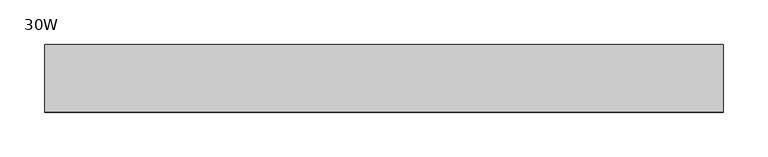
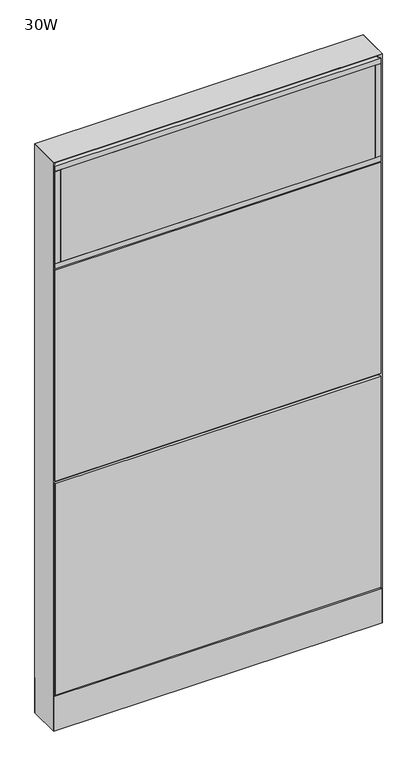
"""IFC4 building model written with IfcOpenShell, lengths in millimetres: furniture geometry, Steelcase - Montage - Frame - 55H - Enhanced Standard - Base Cavity : 30W."""

from ifc_helpers import new_model, si_unit, point, frame, frame_2d, origin, origin_with_axes, place, context, project, spatial, polyline, circle_curve, trimmed, segment, composite_curve, outline, extrude, faceted_brep, source, transform, mapped, element, save


def furniture_30w_effaa8fa(model_context):
    return source(origin(), model_context, "Body", "SolidModel", [
        extrude(outline(polyline([(746.125, 38.1000015), (746.125, 31.7500017), (15.875, 31.7500017), (15.875, 38.1000015), (746.125, 38.1000015)])), frame((0.0, 0.0, 1149.35), z_axis=(0.0, 0.0, 1.0), x_axis=(1.0, 0.0, 0.0)), (0.0, 0.0, 1.0), 226.21875),
        extrude(outline(polyline([(746.125, -31.7499985), (746.125, -38.1000015), (15.875, -38.1000015), (15.875, -31.7499985), (746.125, -31.7499985)])), frame((0.0, 0.0, 1149.35), z_axis=(0.0, 0.0, 1.0), x_axis=(1.0, 0.0, 0.0)), (0.0, 0.0, 1.0), 226.21875),
        extrude(outline(polyline([(15.875, -38.1000015), (3.175, -38.1000015), (3.175, 38.1000015), (15.875, 38.1000015), (15.875, -38.1000015)])), frame((0.0, 0.0, 1149.35), z_axis=(0.0, 0.0, 1.0), x_axis=(1.0, 0.0, 0.0)), (0.0, 0.0, 1.0), 226.21875),
        extrude(outline(polyline([(758.825, -38.1000015), (746.125, -38.1000015), (746.125, 38.1000015), (758.825, 38.1000015), (758.825, -38.1000015)])), frame((0.0, 0.0, 1149.35), z_axis=(0.0, 0.0, 1.0), x_axis=(1.0, 0.0, 0.0)), (0.0, 0.0, 1.0), 226.21875),
        extrude(outline(polyline([(758.825, -38.1000015), (3.175, -38.1000015), (3.175, 38.1000015), (758.825, 38.1000015), (758.825, -38.1000015)])), frame((0.0, 0.0, 1136.65), z_axis=(0.0, 0.0, 1.0), x_axis=(1.0, 0.0, 0.0)), (0.0, 0.0, 1.0), 12.7),
        extrude(outline(polyline([(758.825, -38.1000015), (3.175, -38.1000015), (3.175, 38.1000015), (758.825, 38.1000015), (758.825, -38.1000015)])), frame((0.0, 0.0, 1375.56875), z_axis=(0.0, 0.0, 1.0), x_axis=(1.0, 0.0, 0.0)), (0.0, 0.0, 1.0), 12.7),
        extrude(outline(polyline([(3.175, 31.7500194), (3.175, 38.1000194), (758.825, 38.1000194), (758.825, 31.7500194), (3.175, 31.7500194)])), frame((0.0, 0.0, 615.95), z_axis=(0.0, 0.0, 1.0), x_axis=(1.0, 0.0, 0.0)), (0.0, 0.0, 1.0), 517.525),
        extrude(outline(polyline([(3.175, 31.7500194), (3.175, 38.1000194), (758.825, 38.1000194), (758.825, 31.7500194), (3.175, 31.7500194)])), frame((0.0, 0.0, 92.075), z_axis=(0.0, 0.0, 1.0), x_axis=(1.0, 0.0, 0.0)), (0.0, 0.0, 1.0), 517.525),
        extrude(outline(polyline([(746.125, -38.1000015), (15.875, -38.1000015), (15.875, -31.7500017), (746.125, -31.7500017), (746.125, -38.1000015)])), frame((0.0, 0.0, 1149.35), z_axis=(0.0, 0.0, 1.0), x_axis=(1.0, 0.0, 0.0)), (0.0, 0.0, 1.0), 226.21875),
        extrude(outline(polyline([(746.125, 31.7499985), (15.875, 31.7499985), (15.875, 38.1000015), (746.125, 38.1000015), (746.125, 31.7499985)])), frame((0.0, 0.0, 1149.35), z_axis=(0.0, 0.0, 1.0), x_axis=(1.0, 0.0, 0.0)), (0.0, 0.0, 1.0), 226.21875),
        extrude(outline(polyline([(15.875, 38.1000015), (15.875, -38.1000015), (3.175, -38.1000015), (3.175, 38.1000015), (15.875, 38.1000015)])), frame((0.0, 0.0, 1149.35), z_axis=(0.0, 0.0, 1.0), x_axis=(1.0, 0.0, 0.0)), (0.0, 0.0, 1.0), 226.21875),
        extrude(outline(polyline([(758.825, 38.1000015), (758.825, -38.1000015), (746.125, -38.1000015), (746.125, 38.1000015), (758.825, 38.1000015)])), frame((0.0, 0.0, 1149.35), z_axis=(0.0, 0.0, 1.0), x_axis=(1.0, 0.0, 0.0)), (0.0, 0.0, 1.0), 226.21875),
        extrude(outline(polyline([(758.825, 38.1000015), (758.825, -38.1000015), (3.175, -38.1000015), (3.175, 38.1000015), (758.825, 38.1000015)])), frame((0.0, 0.0, 1136.65), z_axis=(0.0, 0.0, 1.0), x_axis=(1.0, 0.0, 0.0)), (0.0, 0.0, 1.0), 12.7),
        extrude(outline(polyline([(758.825, 38.1000015), (758.825, -38.1000015), (3.175, -38.1000015), (3.175, 38.1000015), (758.825, 38.1000015)])), frame((0.0, 0.0, 1375.56875), z_axis=(0.0, 0.0, 1.0), x_axis=(1.0, 0.0, 0.0)), (0.0, 0.0, 1.0), 12.7),
        extrude(outline(polyline([(3.175, -31.7500194), (758.825, -31.7500194), (758.825, -38.1000194), (3.175, -38.1000194), (3.175, -31.7500194)])), frame((0.0, 0.0, 615.95), z_axis=(0.0, 0.0, 1.0), x_axis=(1.0, 0.0, 0.0)), (0.0, 0.0, 1.0), 517.525),
        extrude(outline(polyline([(3.175, -31.7500194), (758.825, -31.7500194), (758.825, -38.1000194), (3.175, -38.1000194), (3.175, -31.7500194)])), frame((0.0, 0.0, 92.075), z_axis=(0.0, 0.0, 1.0), x_axis=(1.0, 0.0, 0.0)), (0.0, 0.0, 1.0), 517.525),
        extrude(outline(polyline([(6.350003, -31.7499985), (755.649997, -31.7499985), (762.0, -38.1000015), (0.0, -38.1000015), (6.350003, -31.7499985)])), frame((0.0, 0.0, 4.064), z_axis=(0.0, 0.0, 1.0), x_axis=(1.0, 0.0, 0.0)), (0.0, 0.0, 1.0), 84.835997),
        extrude(outline(polyline([(6.3500002, 31.7500017), (0.0, 38.1000015), (762.0, 38.1000015), (755.6500002, 31.7500017), (6.3500002, 31.7500017)])), frame((0.0, 0.0, 4.064), z_axis=(0.0, 0.0, 1.0), x_axis=(1.0, 0.0, 0.0)), (0.0, 0.0, 1.0), 84.835997),
        faceted_brep([(762.0, -38.1000015, 1398.5875), (0.0, -38.1000015, 1398.5875), (6.3500484, -31.749953, 1392.2374516), (755.6499516, -31.749953, 1392.2374516), (6.3500484, 31.749953, 1392.2374516), (755.6499516, 31.749953, 1392.2374516), (0.0, 38.1000015, 1398.5875), (762.0, 38.1000015, 1398.5875)], [[[0, 1, 2, 3]], [[3, 2, 4, 5]], [[6, 7, 5, 4]], [[1, 0, 7, 6]], [[2, 1, 6, 4]], [[0, 3, 5, 7]]]),
        extrude(outline(composite_curve([segment(trimmed(circle_curve(frame_2d((44.45, 0.0)), 15.24), [point((29.21, 0.0))], [point((59.69, 0.0))], False, "CARTESIAN"), True, "CONTINUOUS"), segment(trimmed(circle_curve(frame_2d((44.45, 0.0)), 15.24), [point((59.69, 0.0))], [point((29.21, 0.0))], False, "CARTESIAN"), True, "CONTINUOUS")], self_intersect=False)), origin_with_axes(), (0.0, 0.0, 1.0), 4.064),
        extrude(outline(composite_curve([segment(trimmed(circle_curve(frame_2d((717.55, 0.0)), 15.24), [point((702.31, 0.0))], [point((732.79, 0.0))], False, "CARTESIAN"), True, "CONTINUOUS"), segment(trimmed(circle_curve(frame_2d((717.55, 0.0)), 15.24), [point((732.79, 0.0))], [point((702.31, 0.0))], False, "CARTESIAN"), True, "CONTINUOUS")], self_intersect=False)), origin_with_axes(), (0.0, 0.0, 1.0), 4.064),
        faceted_brep([(762.0, -38.1000106, 4.064), (762.0, 38.1000015, 4.064), (762.0, 38.1000015, 1398.5875), (762.0, -38.1000106, 1398.5874637), (0.0, 38.1000015, 4.064), (0.0, -38.1000015, 4.064), (0.0, -38.1000015, 1398.5875), (0.0, 38.1000015, 1398.5875), (755.6499879, 31.7500017, 606.425), (6.35, 31.7500017, 606.425), (6.3499998, 31.7500017, 619.125), (755.6499879, 31.7500017, 619.125), (6.35, -31.7499985, 619.125), (755.6499879, -31.7499985, 619.125), (6.350003, -31.7499985, 606.425), (755.6499879, -31.7499985, 606.425), (6.35, 31.7500015, 4.064), (6.35, -31.7500015, 4.064), (755.6499879, 31.7499894, 4.064), (755.6499879, -31.7499985, 4.064), (6.35, 31.7500015, 1392.2375), (6.35, -31.7500015, 1392.2375), (755.6499879, -31.7499985, 1392.2374516), (755.6499879, 31.7499895, 1392.2374516)], [[[0, 1, 2, 3]], [[4, 5, 6, 7]], [[8, 9, 10, 11]], [[11, 10, 12, 13]], [[13, 12, 14, 15]], [[9, 8, 15, 14]], [[16, 17, 5, 4]], [[18, 1, 0, 19]], [[16, 4, 7, 20, 10, 9]], [[5, 17, 14, 12, 21, 6]], [[12, 10, 20, 21]], [[17, 16, 9, 14]], [[11, 13, 22, 23]], [[18, 19, 15, 8]], [[19, 0, 3, 22, 13, 15]], [[1, 18, 8, 11, 23, 2]], [[7, 6, 21, 20]], [[3, 2, 23, 22]]]),
    ])


if __name__ == "__main__":
    model = new_model("IFC4")
    model_context = context("Model", 3, world=origin())
    ifc_project = project(units=[si_unit("LENGTHUNIT", "METRE", prefix="MILLI")], contexts=[model_context])
    site = spatial("IfcSite", under=ifc_project)
    building = spatial("IfcBuilding", under=site)
    placement = place(None, origin())
    furniture_30w_shape = furniture_30w_effaa8fa(model_context)
    element("IfcFurniture", 1, ObjectType="Steelcase - Montage - Frame - 55H - Enhanced Standard - Base Cavity : 30W", at=placement, inside=building, context=model_context, shape_type="MappedRepresentation", body=[
        mapped(furniture_30w_shape, transform((0.0, 0.0, 0.0), x_axis=(1.0, 0.0, 0.0), y_axis=(0.0, 1.0, 0.0), z_axis=(0.0, 0.0, 1.0))),
    ])
    save(model, "model.ifc")
